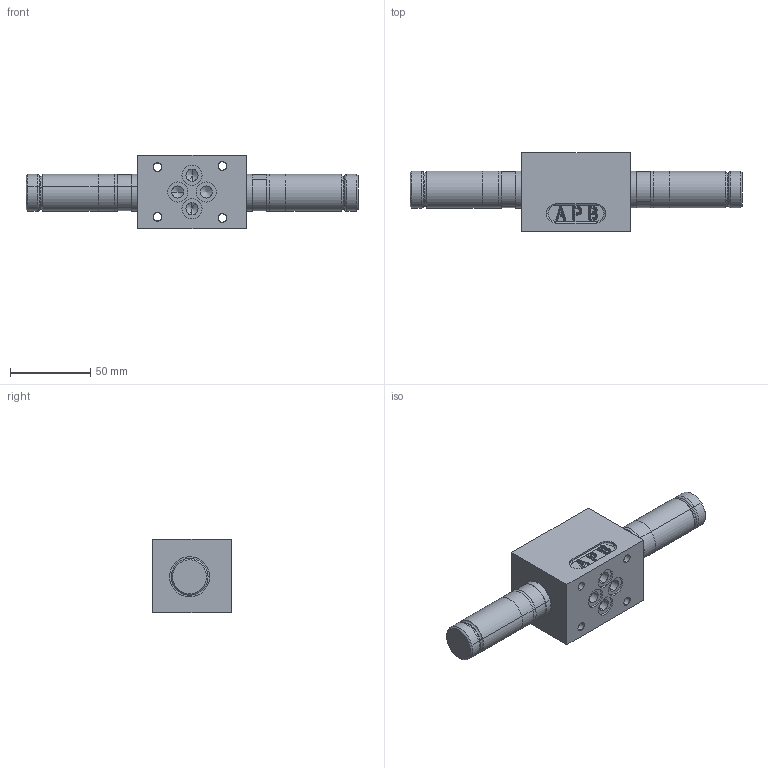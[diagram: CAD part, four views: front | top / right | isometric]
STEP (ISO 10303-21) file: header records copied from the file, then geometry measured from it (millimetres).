
FILE_DESCRIPTION (( 'STEP AP214' ), '1' );
FILE_NAME ('WDMFA06-4_3.STEP', '2014-07-14T11:24:36', ( '' ), ( '' ), 'SwSTEP 2.0', 'SolidWorks 2014', '' );
FILE_SCHEMA (( 'AUTOMOTIVE_DESIGN' ));
Length unit declared in the file: millimetre
Products named in the file (2): WDMFA06-4_3
Bounding box: 207.4 x 49 x 46 mm (x, y, z)
Volume: 194622.8 mm3; surface area: 47223.2 mm2
Topology: 13 solids, 13 shells, 661 faces, 1433 edges, 784 vertices
Faces by surface type: cylinder 261, plane 108, torus 107, cone 76, sphere 57, bspline 52
Entity records: 27764 total; most frequent: CARTESIAN_POINT 6066, DIRECTION 3317, ORIENTED_EDGE 2742, AXIS2_PLACEMENT_3D 1415, EDGE_CURVE 1371, CIRCLE 804, VERTEX_POINT 783, EDGE_LOOP 724
